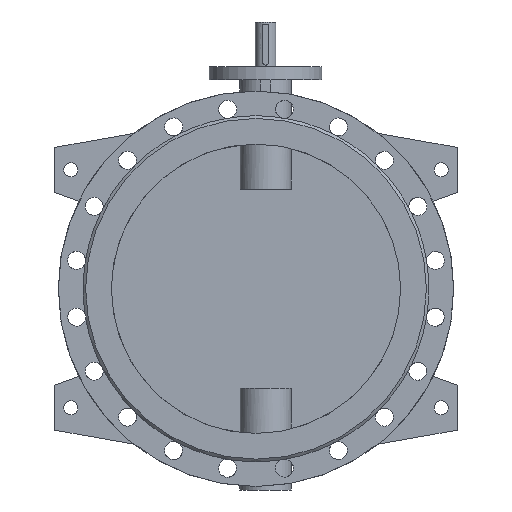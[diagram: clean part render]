
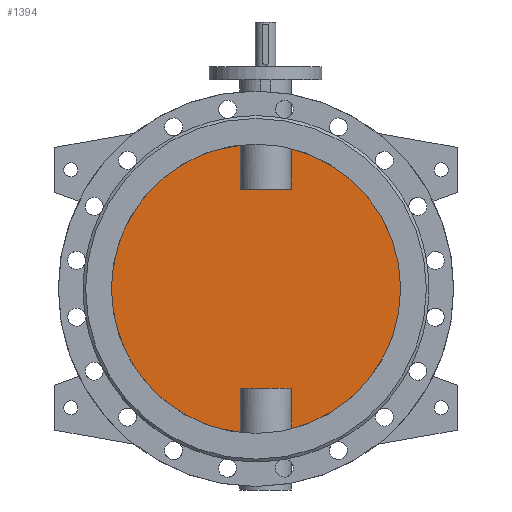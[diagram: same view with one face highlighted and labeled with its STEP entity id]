
A CAD part, front view. The second image highlights one B-rep face of the part: STEP entity #1394.
In plain terms, the highlighted planar face has unit normal (0, -1, 0).
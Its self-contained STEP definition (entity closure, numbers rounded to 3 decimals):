
#1394=ADVANCED_FACE('',(#2864),#2866,.F.);
#2864=FACE_BOUND('',#2865,.T.);
#2865=EDGE_LOOP('',(#3933,#3934,#3935,#3936,#3937,#3938,#3939,#3940));
#2866=PLANE('',#2867);
#2867=AXIS2_PLACEMENT_3D('',#2868,#2869,#2870);
#2868=CARTESIAN_POINT('',(0.,-5.,0.));
#2869=DIRECTION('',(0.,1.,0.));
#2870=DIRECTION('',(1.,0.,0.));
#3933=ORIENTED_EDGE('',*,*,#4478,.T.);
#3934=ORIENTED_EDGE('',*,*,#4484,.T.);
#3935=ORIENTED_EDGE('',*,*,#4485,.T.);
#3936=ORIENTED_EDGE('',*,*,#4486,.T.);
#3937=ORIENTED_EDGE('',*,*,#4480,.T.);
#3938=ORIENTED_EDGE('',*,*,#4487,.T.);
#3939=ORIENTED_EDGE('',*,*,#4488,.T.);
#3940=ORIENTED_EDGE('',*,*,#4489,.T.);
#4478=EDGE_CURVE('',#5341,#5342,#5343,.F.);
#4480=EDGE_CURVE('',#5346,#5344,#5347,.F.);
#4484=EDGE_CURVE('',#5342,#5353,#5354,.T.);
#4485=EDGE_CURVE('',#5353,#5355,#5356,.F.);
#4486=EDGE_CURVE('',#5355,#5346,#5357,.F.);
#4487=EDGE_CURVE('',#5344,#5358,#5359,.F.);
#4488=EDGE_CURVE('',#5358,#5360,#5361,.F.);
#4489=EDGE_CURVE('',#5360,#5341,#5362,.T.);
#5341=VERTEX_POINT('',#9850);
#5342=VERTEX_POINT('',#9851);
#5343=CIRCLE('',#9852,225.);
#5344=VERTEX_POINT('',#9856);
#5346=VERTEX_POINT('',#9942);
#5347=CIRCLE('',#9943,225.);
#5353=VERTEX_POINT('',#10066);
#5354=LINE('',#10067,#10068);
#5355=VERTEX_POINT('',#10070);
#5356=LINE('',#10071,#10072);
#5357=LINE('',#10074,#10075);
#5358=VERTEX_POINT('',#10077);
#5359=LINE('',#10078,#10079);
#5360=VERTEX_POINT('',#10081);
#5361=LINE('',#10082,#10083);
#5362=LINE('',#10085,#10086);
#9850=CARTESIAN_POINT('',(54.686,-5.,-218.253));
#9851=CARTESIAN_POINT('',(54.686,-5.,218.253));
#9852=AXIS2_PLACEMENT_3D('',#9853,#9854,#9855);
#9853=CARTESIAN_POINT('',(0.,-5.,0.));
#9854=DIRECTION('',(0.,1.,0.));
#9855=DIRECTION('',(0.243,0.,0.97));
#9856=CARTESIAN_POINT('',(-24.686,-5.,-223.642));
#9942=CARTESIAN_POINT('',(-24.686,-5.,223.642));
#9943=AXIS2_PLACEMENT_3D('',#9944,#9945,#9946);
#9944=CARTESIAN_POINT('',(0.,-5.,0.));
#9945=DIRECTION('',(0.,1.,0.));
#9946=DIRECTION('',(-0.11,0.,-0.994));
#10066=CARTESIAN_POINT('',(54.686,-5.,155.));
#10067=CARTESIAN_POINT('',(54.686,-5.,218.253));
#10068=VECTOR('',#10069,1.);
#10069=DIRECTION('',(0.,0.,-1.));
#10070=CARTESIAN_POINT('',(-24.686,-5.,155.));
#10071=CARTESIAN_POINT('',(-24.686,-5.,155.));
#10072=VECTOR('',#10073,1.);
#10073=DIRECTION('',(1.,0.,0.));
#10074=CARTESIAN_POINT('',(-24.686,-5.,223.642));
#10075=VECTOR('',#10076,1.);
#10076=DIRECTION('',(0.,0.,-1.));
#10077=CARTESIAN_POINT('',(-24.686,-5.,-155.));
#10078=CARTESIAN_POINT('',(-24.686,-5.,-155.));
#10079=VECTOR('',#10080,1.);
#10080=DIRECTION('',(0.,0.,-1.));
#10081=CARTESIAN_POINT('',(54.686,-5.,-155.));
#10082=CARTESIAN_POINT('',(54.686,-5.,-155.));
#10083=VECTOR('',#10084,1.);
#10084=DIRECTION('',(-1.,0.,0.));
#10085=CARTESIAN_POINT('',(54.686,-5.,-155.));
#10086=VECTOR('',#10087,1.);
#10087=DIRECTION('',(0.,0.,-1.));
